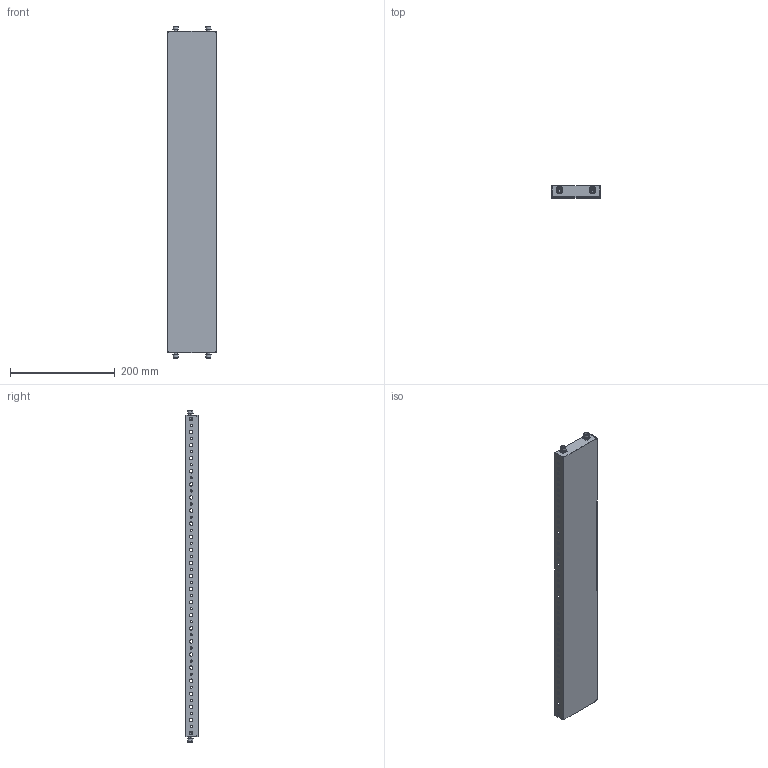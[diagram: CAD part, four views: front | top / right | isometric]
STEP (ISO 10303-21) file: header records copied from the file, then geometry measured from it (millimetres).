
FILE_DESCRIPTION(('Open CASCADE Model'),'2;1');
FILE_NAME('Open CASCADE Shape Model','2025-02-27T10:31:41',('Author'),( 'Open CASCADE'),'Open CASCADE STEP processor 7.8','Open CASCADE 7.8' ,'Unknown');
FILE_SCHEMA(('AUTOMOTIVE_DESIGN { 1 0 10303 214 1 1 1 1 }'));
Length unit declared in the file: millimetre
Products named in the file (5): Compound1; Solid1; Solid2; Solid3; Solid4
Assembly tree (13 placements, depth 2):
  Compound1
    Solid1
    Solid2  x4
    Solid3  x4
    Solid4  x4
Bounding box: 92.5 x 23 x 634.2 mm (x, y, z)
Volume: 132355.2 mm3; surface area: 181195.3 mm2
Topology: 13 solids, 13 shells, 846 faces, 2384 edges, 1556 vertices
Faces by surface type: cylinder 452, plane 346, cone 32, torus 16
Entity records: 14420 total; most frequent: CARTESIAN_POINT 2640, DIRECTION 2530, ORIENTED_EDGE 2376, EDGE_CURVE 1188, AXIS2_PLACEMENT_3D 969, VERTEX_POINT 785, FACE_BOUND 623, EDGE_LOOP 623
